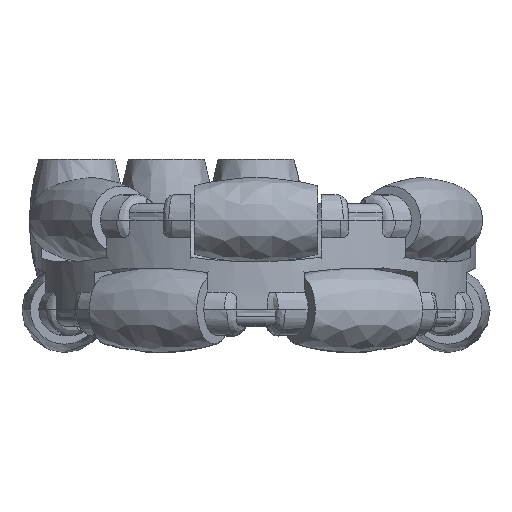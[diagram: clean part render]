
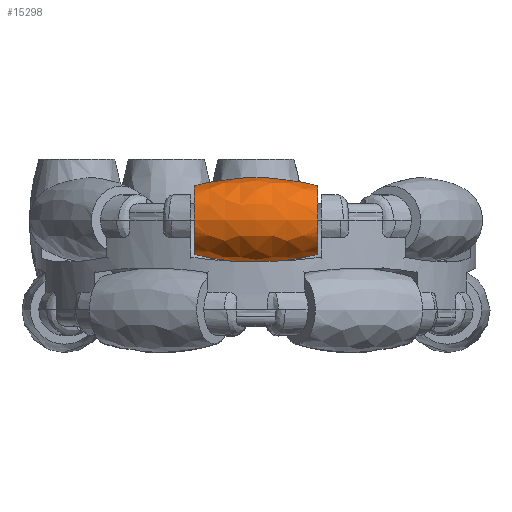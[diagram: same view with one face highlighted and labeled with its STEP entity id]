
A CAD part, top view. The second image highlights one B-rep face of the part: STEP entity #15298.
In plain terms, the highlighted free-form (B-spline) face has degree [2, 2] with [3, 9] control points.
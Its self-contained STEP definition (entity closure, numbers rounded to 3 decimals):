
#111=(
BOUNDED_SURFACE()
B_SPLINE_SURFACE(2,2,((#28736,#28737,#28738,#28739,#28740,#28741,#28742,
#28743,#28744),(#28745,#28746,#28747,#28748,#28749,#28750,#28751,#28752,
#28753),(#28754,#28755,#28756,#28757,#28758,#28759,#28760,#28761,#28762)),
 .UNSPECIFIED.,.F.,.T.,.F.)
B_SPLINE_SURFACE_WITH_KNOTS((3,3),(3,2,2,2,3),(-0.268,0.268),
(-3.142,-1.571,0.,1.571,3.142),
 .UNSPECIFIED.)
GEOMETRIC_REPRESENTATION_ITEM()
RATIONAL_B_SPLINE_SURFACE(((1.,0.707,1.,0.707,1.,
0.707,1.,0.707,1.),(0.964,0.682,
0.964,0.682,0.964,0.682,
0.964,0.682,0.964),(1.,0.707,
1.,0.707,1.,0.707,1.,0.707,1.)))
REPRESENTATION_ITEM('')
SURFACE()
);
#1726=FACE_OUTER_BOUND('',#2605,.T.);
#2605=EDGE_LOOP('',(#11982,#11983,#11984,#11985));
#5615=CIRCLE('',#16393,4.2);
#5620=CIRCLE('',#16400,4.2);
#5621=CIRCLE('',#16401,28.724);
#6709=VERTEX_POINT('',#28721);
#6714=VERTEX_POINT('',#28734);
#8633=EDGE_CURVE('',#6709,#6709,#5615,.T.);
#8639=EDGE_CURVE('',#6714,#6714,#5620,.T.);
#8640=EDGE_CURVE('',#6709,#6714,#5621,.T.);
#11982=ORIENTED_EDGE('',*,*,#8633,.F.);
#11983=ORIENTED_EDGE('',*,*,#8640,.T.);
#11984=ORIENTED_EDGE('',*,*,#8639,.T.);
#11985=ORIENTED_EDGE('',*,*,#8640,.F.);
#15298=ADVANCED_FACE('',(#1726),#111,.F.);
#16393=AXIS2_PLACEMENT_3D('',#28722,#18756,#18757);
#16400=AXIS2_PLACEMENT_3D('',#28735,#18771,#18772);
#16401=AXIS2_PLACEMENT_3D('',#28763,#18773,#18774);
#18756=DIRECTION('center_axis',(1.,0.,0.));
#18757=DIRECTION('ref_axis',(0.,0.,
-1.));
#18771=DIRECTION('center_axis',(1.,0.,0.));
#18772=DIRECTION('ref_axis',(0.,0.,
-1.));
#18773=DIRECTION('center_axis',(0.,-1.,0.));
#18774=DIRECTION('ref_axis',(0.,0.,
1.));
#28721=CARTESIAN_POINT('',(7.6,11.,27.7));
#28722=CARTESIAN_POINT('Origin',(7.6,11.,23.5));
#28734=CARTESIAN_POINT('',(-7.6,11.,27.7));
#28735=CARTESIAN_POINT('Origin',(-7.6,11.,23.5));
#28736=CARTESIAN_POINT('Ctrl Pts',(-7.6,11.,27.7));
#28737=CARTESIAN_POINT('Ctrl Pts',(-7.6,6.8,27.7));
#28738=CARTESIAN_POINT('Ctrl Pts',(-7.6,6.8,23.5));
#28739=CARTESIAN_POINT('Ctrl Pts',(-7.6,6.8,19.3));
#28740=CARTESIAN_POINT('Ctrl Pts',(-7.6,11.,19.3));
#28741=CARTESIAN_POINT('Ctrl Pts',(-7.6,15.2,19.3));
#28742=CARTESIAN_POINT('Ctrl Pts',(-7.6,15.2,23.5));
#28743=CARTESIAN_POINT('Ctrl Pts',(-7.6,15.2,27.7));
#28744=CARTESIAN_POINT('Ctrl Pts',(-7.6,11.,27.7));
#28745=CARTESIAN_POINT('Ctrl Pts',(0.,11.,29.785));
#28746=CARTESIAN_POINT('Ctrl Pts',(0.,4.715,
29.785));
#28747=CARTESIAN_POINT('Ctrl Pts',(0.,4.715,
23.5));
#28748=CARTESIAN_POINT('Ctrl Pts',(0.,4.715,
17.215));
#28749=CARTESIAN_POINT('Ctrl Pts',(0.,11.,17.215));
#28750=CARTESIAN_POINT('Ctrl Pts',(0.,17.285,
17.215));
#28751=CARTESIAN_POINT('Ctrl Pts',(0.,17.285,
23.5));
#28752=CARTESIAN_POINT('Ctrl Pts',(0.,17.285,
29.785));
#28753=CARTESIAN_POINT('Ctrl Pts',(0.,11.,29.785));
#28754=CARTESIAN_POINT('Ctrl Pts',(7.6,11.,27.7));
#28755=CARTESIAN_POINT('Ctrl Pts',(7.6,6.8,27.7));
#28756=CARTESIAN_POINT('Ctrl Pts',(7.6,6.8,23.5));
#28757=CARTESIAN_POINT('Ctrl Pts',(7.6,6.8,19.3));
#28758=CARTESIAN_POINT('Ctrl Pts',(7.6,11.,19.3));
#28759=CARTESIAN_POINT('Ctrl Pts',(7.6,15.2,19.3));
#28760=CARTESIAN_POINT('Ctrl Pts',(7.6,15.2,23.5));
#28761=CARTESIAN_POINT('Ctrl Pts',(7.6,15.2,27.7));
#28762=CARTESIAN_POINT('Ctrl Pts',(7.6,11.,27.7));
#28763=CARTESIAN_POINT('Origin',(0.,11.,0.));
